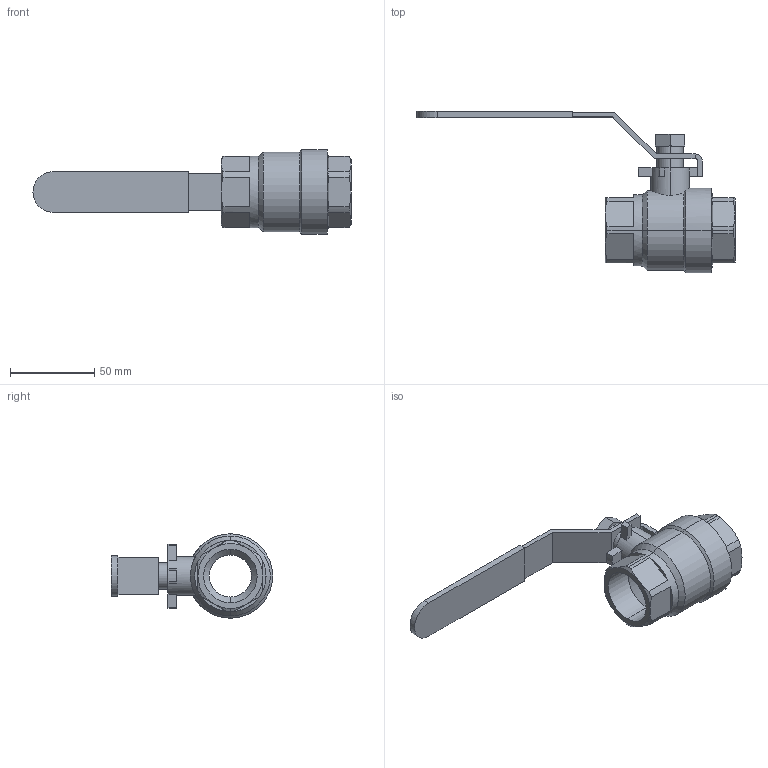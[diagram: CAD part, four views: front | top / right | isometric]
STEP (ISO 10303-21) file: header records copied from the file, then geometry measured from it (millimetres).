
FILE_DESCRIPTION (( 'STEP AP203' ), '1' );
FILE_NAME ('B3.622I025XFVPB0.STEP', '2018-12-14T10:07:22', ( 'dell2' ), ( 'Microsoft' ), 'SwSTEP 2.0', 'SolidWorks 2017', '' );
FILE_SCHEMA (( 'CONFIG_CONTROL_DESIGN' ));
Length unit declared in the file: millimetre
Products named in the file (1): B3.622I025XFVPB0
Bounding box: 188.5 x 95.5 x 50 mm (x, y, z)
Volume: 96394.1 mm3; surface area: 31576.3 mm2
Topology: 1 solids, 1 shells, 119 faces, 299 edges, 187 vertices
Faces by surface type: plane 61, cylinder 33, cone 25
Entity records: 3825 total; most frequent: CARTESIAN_POINT 884, DIRECTION 604, ORIENTED_EDGE 598, EDGE_CURVE 299, AXIS2_PLACEMENT_3D 221, VERTEX_POINT 187, LINE 162, VECTOR 162
